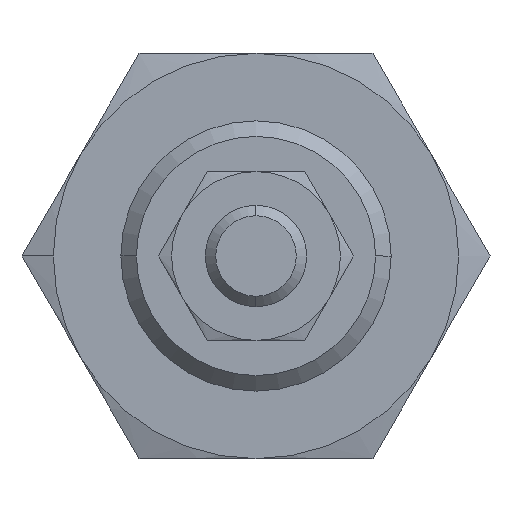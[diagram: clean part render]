
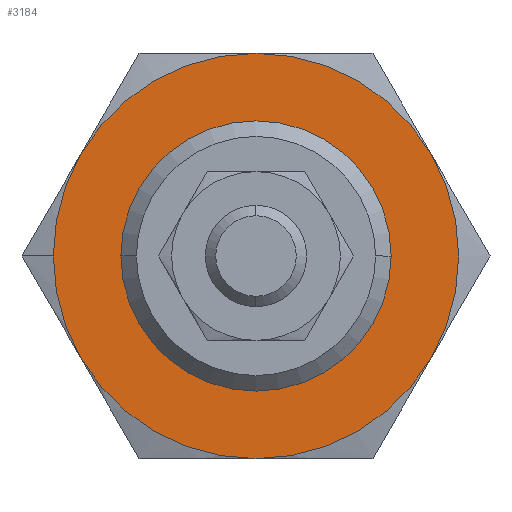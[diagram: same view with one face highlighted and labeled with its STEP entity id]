
A CAD part, left-side view. The second image highlights one B-rep face of the part: STEP entity #3184.
In plain terms, the highlighted planar face has unit normal (-1, 0, 0).
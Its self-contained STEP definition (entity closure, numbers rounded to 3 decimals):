
#17 = DIRECTION ( 'NONE',  ( 0., 1., 0. ) ) ;
#70 = DIRECTION ( 'NONE',  ( 1., 0., 0. ) ) ;
#78 = DIRECTION ( 'NONE',  ( 0., 1., 0. ) ) ;
#116 = CARTESIAN_POINT ( 'NONE',  ( -13.5, -8., 0. ) ) ;
#177 = ORIENTED_EDGE ( 'NONE', *, *, #3687, .F. ) ;
#204 = CIRCLE ( 'NONE', #4084, 12. ) ;
#206 = CIRCLE ( 'NONE', #2705, 12. ) ;
#256 = CIRCLE ( 'NONE', #2746, 8. ) ;
#341 = DIRECTION ( 'NONE',  ( 1., 0., 0. ) ) ;
#397 = DIRECTION ( 'NONE',  ( 0., 1., 0. ) ) ;
#420 = CARTESIAN_POINT ( 'NONE',  ( -13.5, 0., -12. ) ) ;
#481 = EDGE_LOOP ( 'NONE', ( #1167, #1074, #177, #2729, #4006, #2159, #2224 ) ) ;
#562 = DIRECTION ( 'NONE',  ( 0., 1., 0. ) ) ;
#582 = EDGE_CURVE ( 'NONE', #3449, #1388, #204, .T. ) ;
#630 = CIRCLE ( 'NONE', #1606, 12. ) ;
#841 = CIRCLE ( 'NONE', #2645, 8. ) ;
#849 = DIRECTION ( 'NONE',  ( 1., 0., 0. ) ) ;
#858 = CARTESIAN_POINT ( 'NONE',  ( -13.5, 10.392, 6. ) ) ;
#906 = EDGE_CURVE ( 'NONE', #1574, #1750, #206, .T. ) ;
#1074 = ORIENTED_EDGE ( 'NONE', *, *, #582, .F. ) ;
#1088 = CARTESIAN_POINT ( 'NONE',  ( -13.5, 0., 0. ) ) ;
#1101 = CIRCLE ( 'NONE', #2082, 12. ) ;
#1155 = VERTEX_POINT ( 'NONE', #2891 ) ;
#1165 = DIRECTION ( 'NONE',  ( 0., 1., 0. ) ) ;
#1167 = ORIENTED_EDGE ( 'NONE', *, *, #4143, .F. ) ;
#1218 = AXIS2_PLACEMENT_3D ( 'NONE', #4018, #1426, #397 ) ;
#1298 = CARTESIAN_POINT ( 'NONE',  ( -13.5, 12., 0. ) ) ;
#1364 = CIRCLE ( 'NONE', #3233, 12. ) ;
#1388 = VERTEX_POINT ( 'NONE', #2320 ) ;
#1426 = DIRECTION ( 'NONE',  ( 1., 0., 0. ) ) ;
#1509 = AXIS2_PLACEMENT_3D ( 'NONE', #1298, #4275, #1634 ) ;
#1574 = VERTEX_POINT ( 'NONE', #858 ) ;
#1606 = AXIS2_PLACEMENT_3D ( 'NONE', #1983, #70, #2696 ) ;
#1634 = DIRECTION ( 'NONE',  ( 0., 1., 0. ) ) ;
#1660 = PLANE ( 'NONE',  #1509 ) ;
#1688 = CARTESIAN_POINT ( 'NONE',  ( -13.5, 0., 0. ) ) ;
#1750 = VERTEX_POINT ( 'NONE', #1907 ) ;
#1760 = CARTESIAN_POINT ( 'NONE',  ( -13.5, 0., 0. ) ) ;
#1771 = DIRECTION ( 'NONE',  ( 0., 1., 0. ) ) ;
#1873 = DIRECTION ( 'NONE',  ( 1., 0., 0. ) ) ;
#1897 = CARTESIAN_POINT ( 'NONE',  ( -13.5, 0., 0. ) ) ;
#1907 = CARTESIAN_POINT ( 'NONE',  ( -13.5, 0., 12. ) ) ;
#1922 = VERTEX_POINT ( 'NONE', #116 ) ;
#1973 = EDGE_CURVE ( 'NONE', #1922, #4094, #256, .T. ) ;
#1983 = CARTESIAN_POINT ( 'NONE',  ( -13.5, 0., 0. ) ) ;
#2048 = CARTESIAN_POINT ( 'NONE',  ( -13.5, -10.392, -6. ) ) ;
#2082 = AXIS2_PLACEMENT_3D ( 'NONE', #2157, #1873, #1165 ) ;
#2157 = CARTESIAN_POINT ( 'NONE',  ( -13.5, 0., 0. ) ) ;
#2159 = ORIENTED_EDGE ( 'NONE', *, *, #906, .F. ) ;
#2224 = ORIENTED_EDGE ( 'NONE', *, *, #2369, .F. ) ;
#2242 = FACE_OUTER_BOUND ( 'NONE', #481, .T. ) ;
#2320 = CARTESIAN_POINT ( 'NONE',  ( -13.5, 10.392, -6. ) ) ;
#2369 = EDGE_CURVE ( 'NONE', #3301, #1574, #3512, .T. ) ;
#2419 = DIRECTION ( 'NONE',  ( 1., 0., 0. ) ) ;
#2550 = VERTEX_POINT ( 'NONE', #2048 ) ;
#2563 = CARTESIAN_POINT ( 'NONE',  ( -13.5, 12., 0. ) ) ;
#2622 = DIRECTION ( 'NONE',  ( 1., 0., 0. ) ) ;
#2645 = AXIS2_PLACEMENT_3D ( 'NONE', #1688, #4065, #78 ) ;
#2696 = DIRECTION ( 'NONE',  ( 0., 1., 0. ) ) ;
#2700 = CIRCLE ( 'NONE', #1218, 12. ) ;
#2705 = AXIS2_PLACEMENT_3D ( 'NONE', #2962, #341, #17 ) ;
#2729 = ORIENTED_EDGE ( 'NONE', *, *, #3524, .F. ) ;
#2746 = AXIS2_PLACEMENT_3D ( 'NONE', #1897, #849, #3813 ) ;
#2752 = EDGE_LOOP ( 'NONE', ( #3158, #4029 ) ) ;
#2891 = CARTESIAN_POINT ( 'NONE',  ( -13.5, -10.392, 6. ) ) ;
#2962 = CARTESIAN_POINT ( 'NONE',  ( -13.5, 0., 0. ) ) ;
#3158 = ORIENTED_EDGE ( 'NONE', *, *, #1973, .T. ) ;
#3184 = ADVANCED_FACE ( 'NONE', ( #2242, #3968 ), #1660, .T. ) ;
#3233 = AXIS2_PLACEMENT_3D ( 'NONE', #3546, #2622, #562 ) ;
#3301 = VERTEX_POINT ( 'NONE', #2563 ) ;
#3400 = EDGE_CURVE ( 'NONE', #1750, #1155, #2700, .T. ) ;
#3439 = DIRECTION ( 'NONE',  ( 1., 0., 0. ) ) ;
#3449 = VERTEX_POINT ( 'NONE', #420 ) ;
#3512 = CIRCLE ( 'NONE', #4138, 12. ) ;
#3524 = EDGE_CURVE ( 'NONE', #1155, #2550, #1101, .T. ) ;
#3546 = CARTESIAN_POINT ( 'NONE',  ( -13.5, 0., 0. ) ) ;
#3571 = CARTESIAN_POINT ( 'NONE',  ( -13.5, 8., 0. ) ) ;
#3687 = EDGE_CURVE ( 'NONE', #2550, #3449, #1364, .T. ) ;
#3721 = DIRECTION ( 'NONE',  ( 0., 1., 0. ) ) ;
#3813 = DIRECTION ( 'NONE',  ( 0., 1., 0. ) ) ;
#3968 = FACE_BOUND ( 'NONE', #2752, .T. ) ;
#4006 = ORIENTED_EDGE ( 'NONE', *, *, #3400, .F. ) ;
#4008 = EDGE_CURVE ( 'NONE', #4094, #1922, #841, .T. ) ;
#4018 = CARTESIAN_POINT ( 'NONE',  ( -13.5, 0., 0. ) ) ;
#4029 = ORIENTED_EDGE ( 'NONE', *, *, #4008, .T. ) ;
#4065 = DIRECTION ( 'NONE',  ( 1., 0., 0. ) ) ;
#4084 = AXIS2_PLACEMENT_3D ( 'NONE', #1760, #3439, #3721 ) ;
#4094 = VERTEX_POINT ( 'NONE', #3571 ) ;
#4138 = AXIS2_PLACEMENT_3D ( 'NONE', #1088, #2419, #1771 ) ;
#4143 = EDGE_CURVE ( 'NONE', #1388, #3301, #630, .T. ) ;
#4275 = DIRECTION ( 'NONE',  ( -1., 0., 0. ) ) ;
